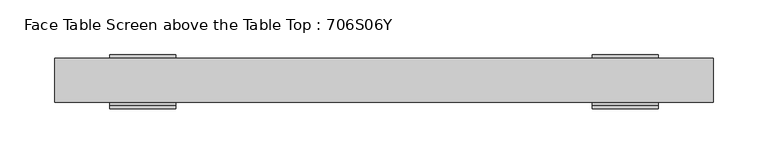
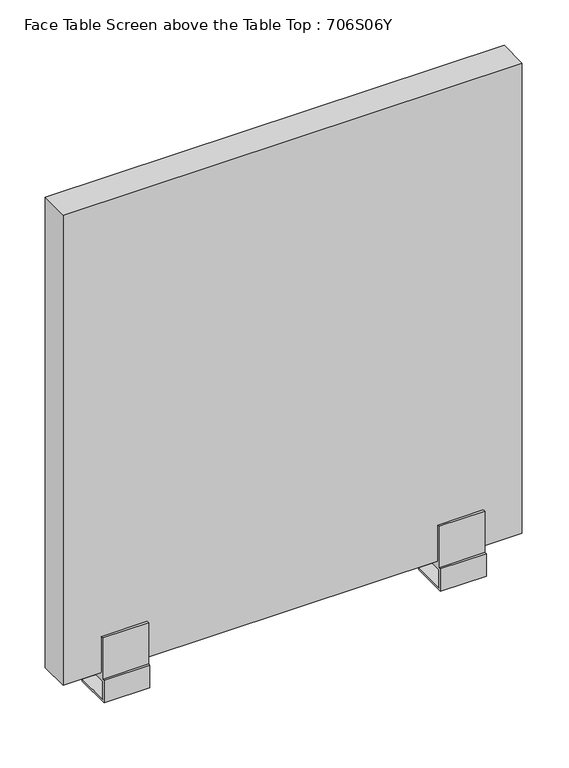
"""IFC4 building model written with IfcOpenShell, lengths in millimetres: furniture geometry, Face Table Screen above the Table Top : 706S06Y."""

from ifc_helpers import new_model, si_unit, frame, origin, place, context, project, spatial, polyline, circle_curve, outline, extrude, source, transform, mapped, element, save
from ifc_brep_helpers import plane_surface, cylinder_surface, advanced_brep


def face_table_screen_above_the_table_top_706s06y_37ab495f(model_context):
    return source(origin(), model_context, "Body", "SolidModel", [
        advanced_brep(
        [(-225.0, 0.0, -39.4406633), (-215.0, 0.0, -39.4406633), (-215.0, 0.0, -28.0), (-225.0, 0.0, -28.0), (-250.0, 23.0, -25.0), (-250.0, -23.0, -25.0), (-190.0, -23.0, -25.0), (-190.0, 23.0, -25.0), (-250.0, -23.0, 0.0), (-250.0, 23.0, -28.0), (-250.0, -26.0, -28.0), (-250.0, -26.0, 3.0), (-250.0, -23.0, 3.0), (-250.0, -23.0, 60.0), (-250.0, -20.0, 60.0), (-250.0, -20.0, 10.0), (-250.0, 20.0, 10.0), (-250.0, 20.0, 60.0), (-250.0, 23.0, 60.0), (-250.0, 23.0, 0.0), (-190.0, -23.0, 0.0), (-190.0, 23.0, 0.0), (-190.0, 23.0, 60.0), (-190.0, 20.0, 60.0), (-190.0, 20.0, 10.0), (-190.0, -20.0, 10.0), (-190.0, -20.0, 60.0), (-190.0, -23.0, 60.0), (-190.0, -23.0, 3.0), (-190.0, -26.0, 3.0), (-190.0, -26.0, -28.0), (-190.0, 23.0, -28.0)],
        [
            (0, 1, circle_curve(frame((-220.0, 0.0, -39.4406633), z_axis=(0.0, 0.0, -1.0), x_axis=(1.0, 0.0, 0.0)), 5.0)),
            (1, 0, circle_curve(frame((-220.0, 0.0, -39.4406633), z_axis=(0.0, 0.0, -1.0), x_axis=(1.0, 0.0, 0.0)), 5.0)),
            (1, 2),
            (2, 3, circle_curve(frame((-220.0, 0.0, -28.0), z_axis=(0.0, 0.0, -1.0), x_axis=(1.0, 0.0, 0.0)), 5.0)),
            (3, 0),
            (3, 2, circle_curve(frame((-220.0, 0.0, -28.0), z_axis=(0.0, 0.0, -1.0), x_axis=(1.0, 0.0, 0.0)), 5.0)),
            (4, 5),
            (5, 6),
            (6, 7),
            (7, 4),
            (8, 5),
            (4, 9),
            (9, 10),
            (10, 11),
            (11, 12),
            (12, 13),
            (13, 14),
            (14, 15),
            (15, 16),
            (16, 17),
            (17, 18),
            (18, 19),
            (19, 8),
            (20, 21),
            (21, 22),
            (22, 23),
            (23, 24),
            (24, 25),
            (25, 26),
            (26, 27),
            (27, 28),
            (28, 29),
            (29, 30),
            (30, 31),
            (31, 7),
            (6, 20),
            (19, 21),
            (20, 8),
            (18, 22),
            (17, 23),
            (16, 24),
            (15, 25),
            (14, 26),
            (13, 27),
            (12, 28),
            (11, 29),
            (10, 30),
            (9, 31),
        ],
        [
            plane_surface(frame((-215.0, 0.0, -39.4406633), z_axis=(0.0, 0.0, -1.0), x_axis=(0.0, -1.0, 0.0))),
            cylinder_surface(frame((-220.0, 0.0, -39.4406633), z_axis=(0.0, 0.0, 1.0), x_axis=(1.0, 0.0, 0.0)), 5.0),
            plane_surface(frame((-215.0, 0.0, -25.0), z_axis=(0.0, 0.0, 1.0), x_axis=(0.0, 1.0, 0.0))),
            plane_surface(frame((-250.0, 23.0, 0.0), z_axis=(-1.0, 0.0, 0.0), x_axis=(0.0, -1.0, 0.0))),
            plane_surface(frame((-190.0, 23.0, 0.0), z_axis=(1.0, 0.0, 0.0), x_axis=(0.0, 1.0, 0.0))),
            plane_surface(frame((-190.0, -23.0, 0.0), z_axis=(0.0, 0.0, -1.0), x_axis=(-1.0, 0.0, 0.0))),
            plane_surface(frame((-190.0, 23.0, 0.0), z_axis=(0.0, 1.0, 0.0), x_axis=(-1.0, 0.0, 0.0))),
            plane_surface(frame((-190.0, 23.0, 60.0), z_axis=(0.0, 0.0, 1.0), x_axis=(-1.0, 0.0, 0.0))),
            plane_surface(frame((-190.0, 20.0, 60.0), z_axis=(0.0, -1.0, 0.0), x_axis=(-1.0, 0.0, 0.0))),
            plane_surface(frame((-190.0, 20.0, 10.0), z_axis=(0.0, 0.0, 1.0), x_axis=(-1.0, 0.0, 0.0))),
            plane_surface(frame((-190.0, -20.0, 10.0), z_axis=(0.0, 1.0, 0.0), x_axis=(-1.0, 0.0, 0.0))),
            plane_surface(frame((-190.0, -20.0, 60.0), z_axis=(0.0, 0.0, 1.0), x_axis=(-1.0, 0.0, 0.0))),
            plane_surface(frame((-190.0, -23.0, 60.0), z_axis=(0.0, -1.0, 0.0), x_axis=(-1.0, 0.0, 0.0))),
            plane_surface(frame((-190.0, -23.0, 3.0), z_axis=(0.0, 0.0, 1.0), x_axis=(-1.0, 0.0, 0.0))),
            plane_surface(frame((-190.0, -26.0, 3.0), z_axis=(0.0, -1.0, 0.0), x_axis=(-1.0, 0.0, 0.0))),
            plane_surface(frame((-190.0, -26.0, -28.0), z_axis=(0.0, 0.0, -1.0), x_axis=(-1.0, 0.0, 0.0))),
            plane_surface(frame((-190.0, 23.0, -28.0), z_axis=(0.0, 1.0, 0.0), x_axis=(-1.0, 0.0, 0.0))),
            plane_surface(frame((-190.0, -23.0, -25.0), z_axis=(0.0, 1.0, 0.0), x_axis=(-1.0, 0.0, 0.0))),
        ],
        [
            (0, [[1, 2]]),
            (1, [[-2, 3, 4, 5]]),
            (1, [[-1, -5, 6, -3]]),
            (2, [[7, 8, 9, 10]]),
            (3, [[11, -7, 12, 13, 14, 15, 16, 17, 18, 19, 20, 21, 22, 23]]),
            (4, [[24, 25, 26, 27, 28, 29, 30, 31, 32, 33, 34, 35, -9, 36]]),
            (5, [[-23, 37, -24, 38]]),
            (6, [[-22, 39, -25, -37]]),
            (7, [[-21, 40, -26, -39]]),
            (8, [[-20, 41, -27, -40]]),
            (9, [[-19, 42, -28, -41]]),
            (10, [[-18, 43, -29, -42]]),
            (11, [[-17, 44, -30, -43]]),
            (12, [[-16, 45, -31, -44]]),
            (13, [[-15, 46, -32, -45]]),
            (14, [[-14, 47, -33, -46]]),
            (15, [[-13, 48, -34, -47], [-4, -6]]),
            (16, [[-12, -10, -35, -48]]),
            (17, [[-11, -38, -36, -8]]),
        ],
    ),
        advanced_brep(
        [(215.0, 0.0, -39.4406633), (225.0, 0.0, -39.4406633), (225.0, 0.0, -28.0), (215.0, 0.0, -28.0), (190.0, 23.0, -25.0), (190.0, -23.0, -25.0), (250.0, -23.0, -25.0), (250.0, 23.0, -25.0), (190.0, -23.0, 0.0), (190.0, 23.0, -28.0), (190.0, -26.0, -28.0), (190.0, -26.0, 3.0), (190.0, -23.0, 3.0), (190.0, -23.0, 60.0), (190.0, -20.0, 60.0), (190.0, -20.0, 10.0), (190.0, 20.0, 10.0), (190.0, 20.0, 60.0), (190.0, 23.0, 60.0), (190.0, 23.0, 0.0), (250.0, -23.0, 0.0), (250.0, 23.0, 0.0), (250.0, 23.0, 60.0), (250.0, 20.0, 60.0), (250.0, 20.0, 10.0), (250.0, -20.0, 10.0), (250.0, -20.0, 60.0), (250.0, -23.0, 60.0), (250.0, -23.0, 3.0), (250.0, -26.0, 3.0), (250.0, -26.0, -28.0), (250.0, 23.0, -28.0)],
        [
            (0, 1, circle_curve(frame((220.0, 0.0, -39.4406633), z_axis=(0.0, 0.0, -1.0), x_axis=(1.0, 0.0, 0.0)), 5.0)),
            (1, 0, circle_curve(frame((220.0, 0.0, -39.4406633), z_axis=(0.0, 0.0, -1.0), x_axis=(1.0, 0.0, 0.0)), 5.0)),
            (1, 2),
            (2, 3, circle_curve(frame((220.0, 0.0, -28.0), z_axis=(0.0, 0.0, -1.0), x_axis=(1.0, 0.0, 0.0)), 5.0)),
            (3, 0),
            (3, 2, circle_curve(frame((220.0, 0.0, -28.0), z_axis=(0.0, 0.0, -1.0), x_axis=(1.0, 0.0, 0.0)), 5.0)),
            (4, 5),
            (5, 6),
            (6, 7),
            (7, 4),
            (8, 5),
            (4, 9),
            (9, 10),
            (10, 11),
            (11, 12),
            (12, 13),
            (13, 14),
            (14, 15),
            (15, 16),
            (16, 17),
            (17, 18),
            (18, 19),
            (19, 8),
            (20, 21),
            (21, 22),
            (22, 23),
            (23, 24),
            (24, 25),
            (25, 26),
            (26, 27),
            (27, 28),
            (28, 29),
            (29, 30),
            (30, 31),
            (31, 7),
            (6, 20),
            (19, 21),
            (20, 8),
            (18, 22),
            (17, 23),
            (16, 24),
            (15, 25),
            (14, 26),
            (13, 27),
            (12, 28),
            (11, 29),
            (10, 30),
            (9, 31),
        ],
        [
            plane_surface(frame((225.0, 0.0, -39.4406633), z_axis=(0.0, 0.0, -1.0), x_axis=(0.0, -1.0, 0.0))),
            cylinder_surface(frame((220.0, 0.0, -39.4406633), z_axis=(0.0, 0.0, 1.0), x_axis=(1.0, 0.0, 0.0)), 5.0),
            plane_surface(frame((225.0, 0.0, -25.0), z_axis=(0.0, 0.0, 1.0), x_axis=(0.0, 1.0, 0.0))),
            plane_surface(frame((190.0, 23.0, 0.0), z_axis=(-1.0, 0.0, 0.0), x_axis=(0.0, -1.0, 0.0))),
            plane_surface(frame((250.0, 23.0, 0.0), z_axis=(1.0, 0.0, 0.0), x_axis=(0.0, 1.0, 0.0))),
            plane_surface(frame((250.0, -23.0, 0.0), z_axis=(0.0, 0.0, -1.0), x_axis=(-1.0, 0.0, 0.0))),
            plane_surface(frame((250.0, 23.0, 0.0), z_axis=(0.0, 1.0, 0.0), x_axis=(-1.0, 0.0, 0.0))),
            plane_surface(frame((250.0, 23.0, 60.0), z_axis=(0.0, 0.0, 1.0), x_axis=(-1.0, 0.0, 0.0))),
            plane_surface(frame((250.0, 20.0, 60.0), z_axis=(0.0, -1.0, 0.0), x_axis=(-1.0, 0.0, 0.0))),
            plane_surface(frame((250.0, 20.0, 10.0), z_axis=(0.0, 0.0, 1.0), x_axis=(-1.0, 0.0, 0.0))),
            plane_surface(frame((250.0, -20.0, 10.0), z_axis=(0.0, 1.0, 0.0), x_axis=(-1.0, 0.0, 0.0))),
            plane_surface(frame((250.0, -20.0, 60.0), z_axis=(0.0, 0.0, 1.0), x_axis=(-1.0, 0.0, 0.0))),
            plane_surface(frame((250.0, -23.0, 60.0), z_axis=(0.0, -1.0, 0.0), x_axis=(-1.0, 0.0, 0.0))),
            plane_surface(frame((250.0, -23.0, 3.0), z_axis=(0.0, 0.0, 1.0), x_axis=(-1.0, 0.0, 0.0))),
            plane_surface(frame((250.0, -26.0, 3.0), z_axis=(0.0, -1.0, 0.0), x_axis=(-1.0, 0.0, 0.0))),
            plane_surface(frame((250.0, -26.0, -28.0), z_axis=(0.0, 0.0, -1.0), x_axis=(-1.0, 0.0, 0.0))),
            plane_surface(frame((250.0, 23.0, -28.0), z_axis=(0.0, 1.0, 0.0), x_axis=(-1.0, 0.0, 0.0))),
            plane_surface(frame((250.0, -23.0, -25.0), z_axis=(0.0, 1.0, 0.0), x_axis=(-1.0, 0.0, 0.0))),
        ],
        [
            (0, [[1, 2]]),
            (1, [[-2, 3, 4, 5]]),
            (1, [[-1, -5, 6, -3]]),
            (2, [[7, 8, 9, 10]]),
            (3, [[11, -7, 12, 13, 14, 15, 16, 17, 18, 19, 20, 21, 22, 23]]),
            (4, [[24, 25, 26, 27, 28, 29, 30, 31, 32, 33, 34, 35, -9, 36]]),
            (5, [[-23, 37, -24, 38]]),
            (6, [[-22, 39, -25, -37]]),
            (7, [[-21, 40, -26, -39]]),
            (8, [[-20, 41, -27, -40]]),
            (9, [[-19, 42, -28, -41]]),
            (10, [[-18, 43, -29, -42]]),
            (11, [[-17, 44, -30, -43]]),
            (12, [[-16, 45, -31, -44]]),
            (13, [[-15, 46, -32, -45]]),
            (14, [[-14, 47, -33, -46]]),
            (15, [[-13, 48, -34, -47], [-4, -6]]),
            (16, [[-12, -10, -35, -48]]),
            (17, [[-11, -38, -36, -8]]),
        ],
    ),
        extrude(outline(polyline([(300.0, -20.0), (-300.0, -20.0), (-300.0, 20.0), (300.0, 20.0), (300.0, -20.0)])), frame((0.0, 0.0, 10.0), z_axis=(0.0, 0.0, 1.0), x_axis=(1.0, 0.0, 0.0)), (0.0, 0.0, 1.0), 650.0),
    ])


if __name__ == "__main__":
    model = new_model("IFC4")
    model_context = context("Model", 3, world=origin())
    ifc_project = project(units=[si_unit("LENGTHUNIT", "METRE", prefix="MILLI")], contexts=[model_context])
    site = spatial("IfcSite", under=ifc_project)
    building = spatial("IfcBuilding", under=site)
    placement = place(None, origin())
    face_table_screen_above_the_table_top_706s06y_shape = face_table_screen_above_the_table_top_706s06y_37ab495f(model_context)
    element("IfcFurniture", 1, ObjectType="Face Table Screen above the Table Top : 706S06Y", at=placement, inside=building, context=model_context, shape_type="MappedRepresentation", body=[
        mapped(face_table_screen_above_the_table_top_706s06y_shape, transform((0.0, 0.0, 0.0), x_axis=(1.0, 0.0, 0.0), y_axis=(0.0, 1.0, 0.0), z_axis=(0.0, 0.0, 1.0))),
    ])
    save(model, "model.ifc")
